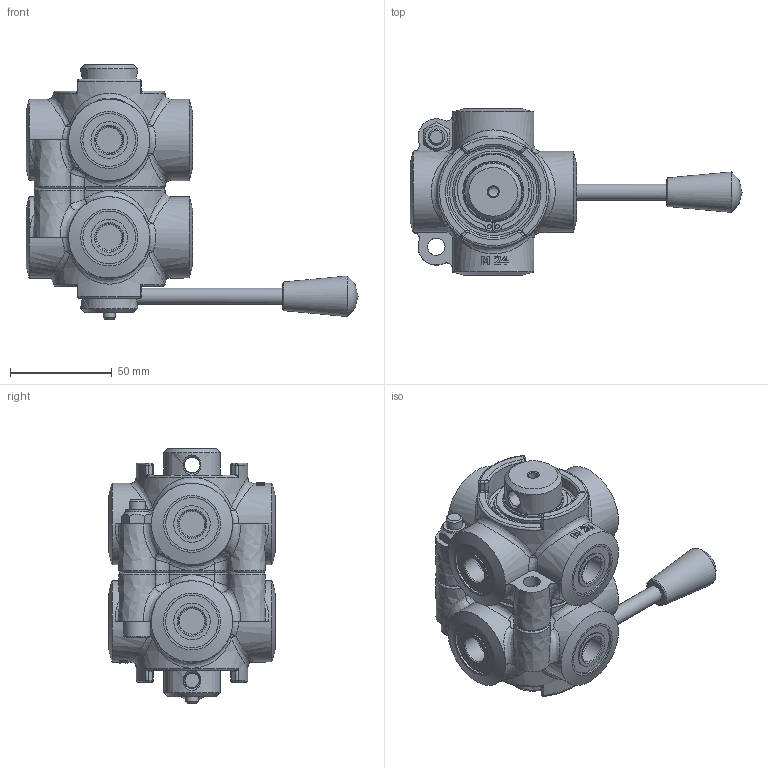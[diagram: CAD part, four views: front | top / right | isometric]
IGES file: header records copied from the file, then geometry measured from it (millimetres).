
Global section: file name: No Iges File Name specified; native system: Autodesk Inventor 2013; preprocessor: AutoDesk Inventor Iges Exporter R2013; author: christian.scardovi; date: 20240830.081144; units: millimetre
Bounding box: 163.5 x 82 x 125.25 mm (x, y, z)
Volume: 415955.9 mm3; surface area: 57093.4 mm2
Topology: 1 solids, 1 shells, 516 faces, 1209 edges, 719 vertices
Faces by surface type: bspline 516
